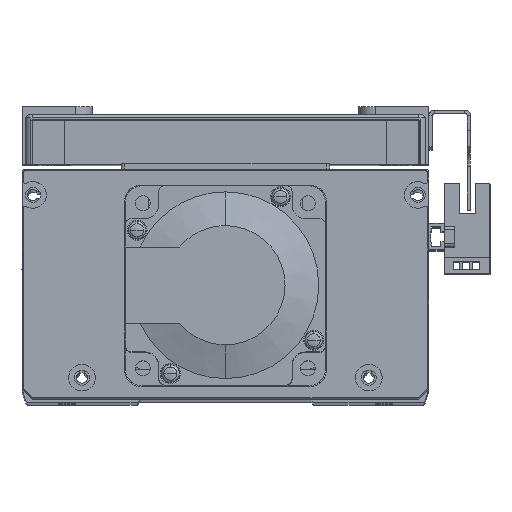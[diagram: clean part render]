
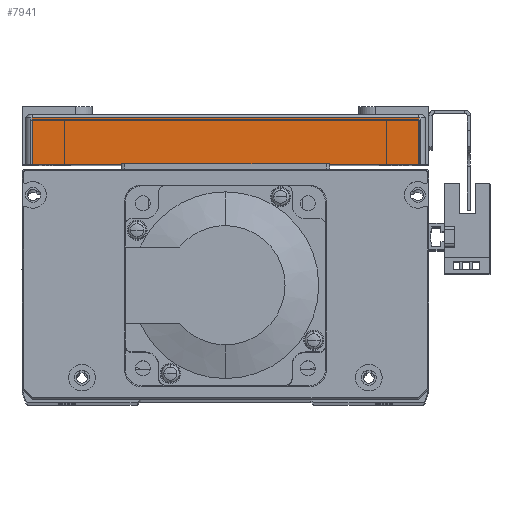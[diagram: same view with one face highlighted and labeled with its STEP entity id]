
A CAD part, top view. The second image highlights one B-rep face of the part: STEP entity #7941.
In plain terms, the highlighted planar face has unit normal (0, 0, 1) as drawn and (1, 0, 0) by its records, which use the part's own axes.
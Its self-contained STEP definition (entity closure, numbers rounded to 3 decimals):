
#92 = FACE_OUTER_BOUND ( 'NONE', #40067, .T. ) ;
#7941 = ADVANCED_FACE ( 'NONE', ( #92 ), #31228, .F. ) ;
#23769 = AXIS2_PLACEMENT_3D ( 'NONE', #31230, #31241, #31231 ) ;
#28005 = EDGE_CURVE ( 'NONE', #31511, #31504, #50783, .T. ) ;
#28067 = EDGE_CURVE ( 'NONE', #31432, #31451, #50897, .T. ) ;
#28076 = EDGE_CURVE ( 'NONE', #31451, #31511, #50884, .T. ) ;
#28125 = EDGE_CURVE ( 'NONE', #31504, #31432, #49167, .T. ) ;
#31228 = PLANE ( 'NONE',  #23769 ) ;
#31230 = CARTESIAN_POINT ( 'NONE',  ( 82.5, 15., -60. ) ) ;
#31231 = DIRECTION ( 'NONE',  ( 0., 0., 1. ) ) ;
#31241 = DIRECTION ( 'NONE',  ( -1., 0., 0. ) ) ;
#31432 = VERTEX_POINT ( 'NONE', #35228 ) ;
#31451 = VERTEX_POINT ( 'NONE', #35265 ) ;
#31504 = VERTEX_POINT ( 'NONE', #35367 ) ;
#31511 = VERTEX_POINT ( 'NONE', #35443 ) ;
#35228 = CARTESIAN_POINT ( 'NONE',  ( 82.5, 0., -58. ) ) ;
#35265 = CARTESIAN_POINT ( 'NONE',  ( 82.5, 14., -58. ) ) ;
#35367 = CARTESIAN_POINT ( 'NONE',  ( 82.5, 0., 58. ) ) ;
#35443 = CARTESIAN_POINT ( 'NONE',  ( 82.5, 14., 58. ) ) ;
#39278 = ORIENTED_EDGE ( 'NONE', *, *, #28005, .T. ) ;
#39285 = ORIENTED_EDGE ( 'NONE', *, *, #28067, .T. ) ;
#39306 = ORIENTED_EDGE ( 'NONE', *, *, #28076, .T. ) ;
#39310 = ORIENTED_EDGE ( 'NONE', *, *, #28125, .T. ) ;
#40067 = EDGE_LOOP ( 'NONE', ( #39285, #39306, #39278, #39310 ) ) ;
#40941 = CARTESIAN_POINT ( 'NONE',  ( 82.5, 15., 58. ) ) ;
#40954 = DIRECTION ( 'NONE',  ( 0., -1., 0. ) ) ;
#41121 = CARTESIAN_POINT ( 'NONE',  ( 82.5, 15., -58. ) ) ;
#41140 = DIRECTION ( 'NONE',  ( 0., 0., 1. ) ) ;
#41156 = CARTESIAN_POINT ( 'NONE',  ( 82.5, 14., 58. ) ) ;
#41158 = DIRECTION ( 'NONE',  ( 0., 1., 0. ) ) ;
#41271 = DIRECTION ( 'NONE',  ( 0., 0., -1. ) ) ;
#41274 = CARTESIAN_POINT ( 'NONE',  ( 82.5, 0., -60. ) ) ;
#49164 = VECTOR ( 'NONE', #41271, 1000. ) ;
#49167 = LINE ( 'NONE', #41274, #49164 ) ;
#50783 = LINE ( 'NONE', #40941, #50786 ) ;
#50786 = VECTOR ( 'NONE', #40954, 1000. ) ;
#50884 = LINE ( 'NONE', #41156, #50915 ) ;
#50897 = LINE ( 'NONE', #41121, #50905 ) ;
#50905 = VECTOR ( 'NONE', #41158, 1000. ) ;
#50915 = VECTOR ( 'NONE', #41140, 1000. ) ;
